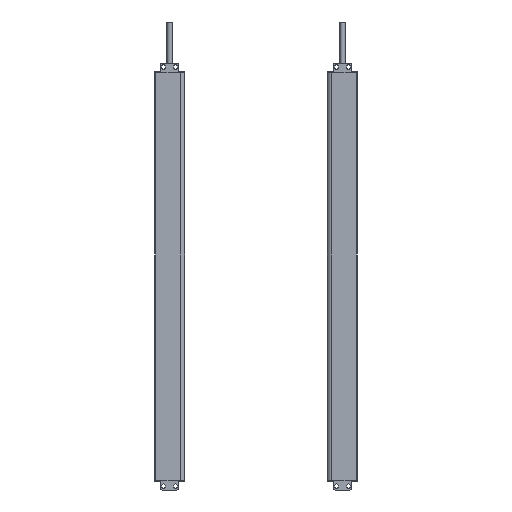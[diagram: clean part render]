
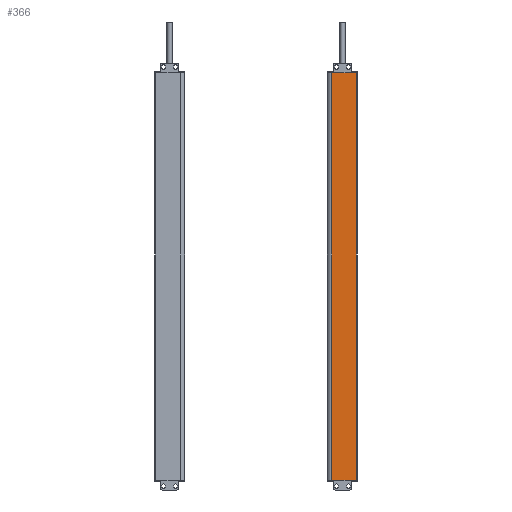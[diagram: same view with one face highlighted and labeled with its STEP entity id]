
A CAD part, front view. The second image highlights one B-rep face of the part: STEP entity #366.
In plain terms, the highlighted planar face has unit normal (0, -1, 0).
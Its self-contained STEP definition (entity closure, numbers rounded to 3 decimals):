
#123=PLANE('',#5869);
#366=ADVANCED_FACE('',(#797),#123,.T.);
#797=FACE_OUTER_BOUND('',#1073,.T.);
#1073=EDGE_LOOP('',(#1780,#1781,#1782,#1783));
#1780=ORIENTED_EDGE('',*,*,#3977,.T.);
#1781=ORIENTED_EDGE('',*,*,#3978,.F.);
#1782=ORIENTED_EDGE('',*,*,#3979,.F.);
#1783=ORIENTED_EDGE('',*,*,#3903,.T.);
#3351=VERTEX_POINT('',#8106);
#3352=VERTEX_POINT('',#8108);
#3421=VERTEX_POINT('',#8253);
#3422=VERTEX_POINT('',#8257);
#3903=EDGE_CURVE('',#3352,#3351,#4726,.T.);
#3977=EDGE_CURVE('',#3351,#3421,#4771,.T.);
#3978=EDGE_CURVE('',#3422,#3421,#4772,.T.);
#3979=EDGE_CURVE('',#3352,#3422,#4773,.T.);
#4726=LINE('',#8107,#5280);
#4771=LINE('',#8254,#5325);
#4772=LINE('',#8256,#5326);
#4773=LINE('',#8258,#5327);
#5280=VECTOR('',#6413,1.);
#5325=VECTOR('',#6522,1.);
#5326=VECTOR('',#6525,1.);
#5327=VECTOR('',#6526,1.);
#5869=AXIS2_PLACEMENT_3D('',#8259,#6527,#6528);
#6413=DIRECTION('',(1.,0.,0.));
#6522=DIRECTION('',(0.,0.,1.));
#6525=DIRECTION('',(1.,0.,0.));
#6526=DIRECTION('',(0.,0.,1.));
#6527=DIRECTION('',(0.,-1.,0.));
#6528=DIRECTION('',(-1.,0.,0.));
#8106=CARTESIAN_POINT('',(3.35,-1.3,-100.));
#8107=CARTESIAN_POINT('',(-21.15,-1.3,-100.));
#8108=CARTESIAN_POINT('',(-21.15,-1.3,-100.));
#8253=CARTESIAN_POINT('',(3.35,-1.3,302.));
#8254=CARTESIAN_POINT('',(3.35,-1.3,-100.));
#8256=CARTESIAN_POINT('',(-4122.897,-1.3,302.));
#8257=CARTESIAN_POINT('',(-21.15,-1.3,302.));
#8258=CARTESIAN_POINT('',(-21.15,-1.3,-100.));
#8259=CARTESIAN_POINT('',(-21.15,-1.3,-100.));
